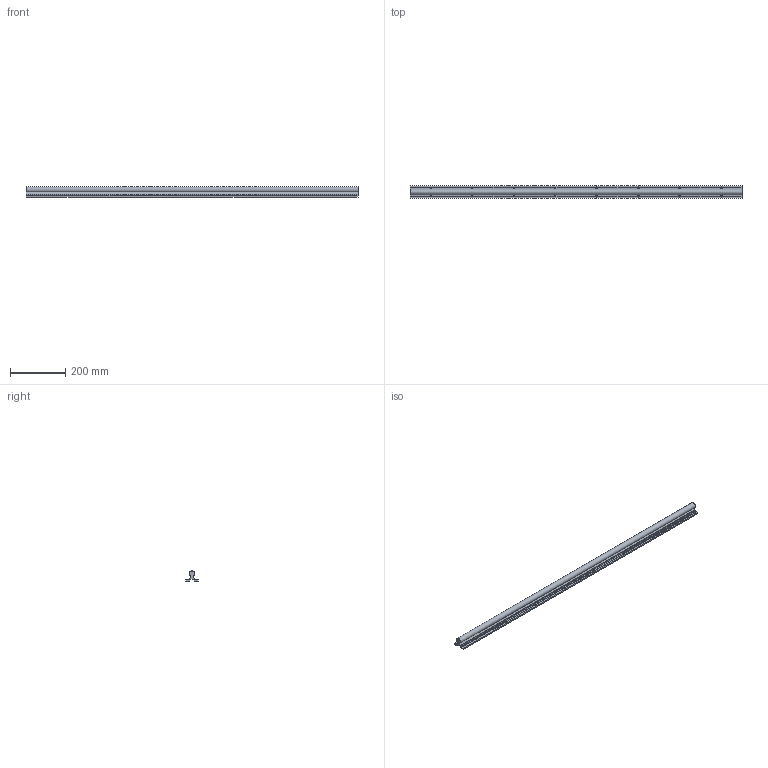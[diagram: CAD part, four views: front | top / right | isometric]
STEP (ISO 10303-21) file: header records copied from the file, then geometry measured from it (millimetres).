
FILE_DESCRIPTION(/* description */ (''),/* implementation_level */ '2;1');
FILE_NAME(/* name */ 'C:\Users\David\Desktop\stepFiles\Profilfuehrung\LFS20x1200.stp',/* time_stamp */ '2018-06-24T15:21:59+02:00',/* author */ ('Buskamp'),/* organization */ (''),/* preprocessor_version */ 'ST-DEVELOPER v17',/* originating_system */ 'Autodesk Inventor 2019',/* authorisation */ '');
FILE_SCHEMA (('AUTOMOTIVE_DESIGN { 1 0 10303 214 3 1 1 }'));
Length unit declared in the file: millimetre
Products named in the file (1): Linearführung D20xvariabel
Bounding box: 1200 x 45 x 37 mm (x, y, z)
Volume: 775330 mm3; surface area: 213167.3 mm2
Topology: 1 solids, 1 shells, 106 faces, 344 edges, 224 vertices
Faces by surface type: plane 73, cylinder 17, cone 16
Full cylindrical faces by diameter (mm): 5.5 x16
Entity records: 3881 total; most frequent: CARTESIAN_POINT 739, ORIENTED_EDGE 688, DIRECTION 656, EDGE_CURVE 344, AXIS2_PLACEMENT_3D 237, VERTEX_POINT 224, LINE 182, VECTOR 182
